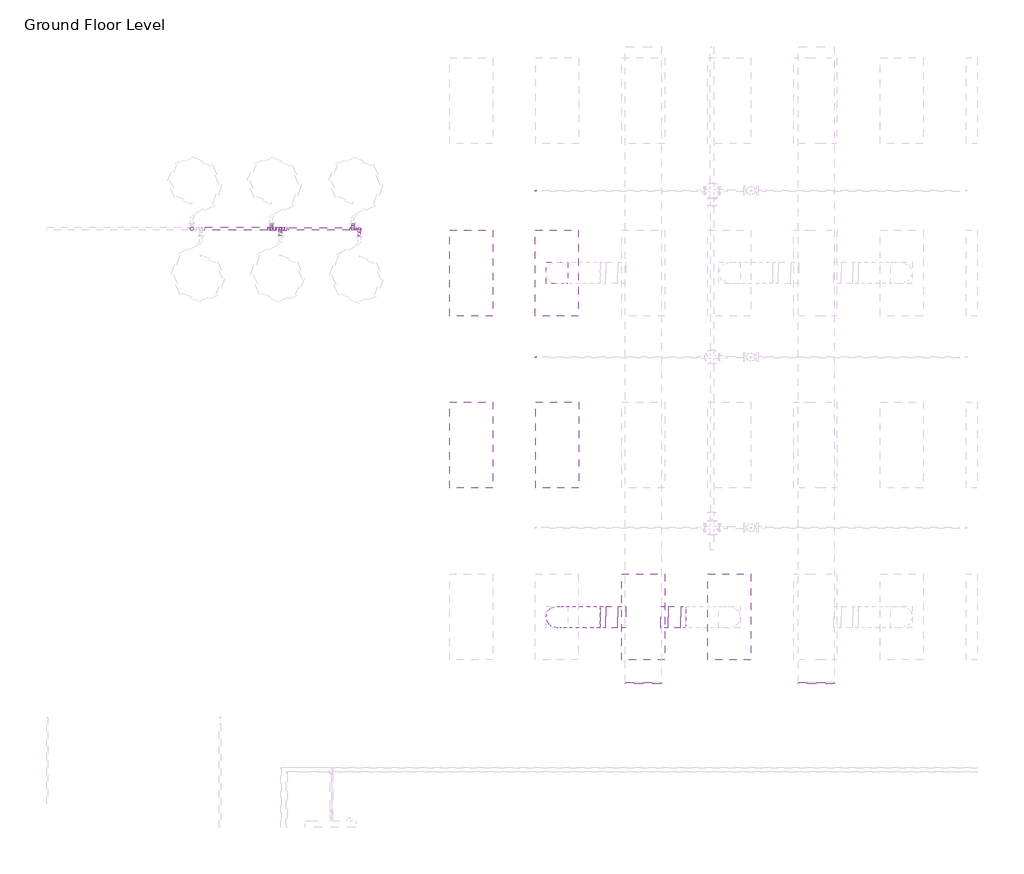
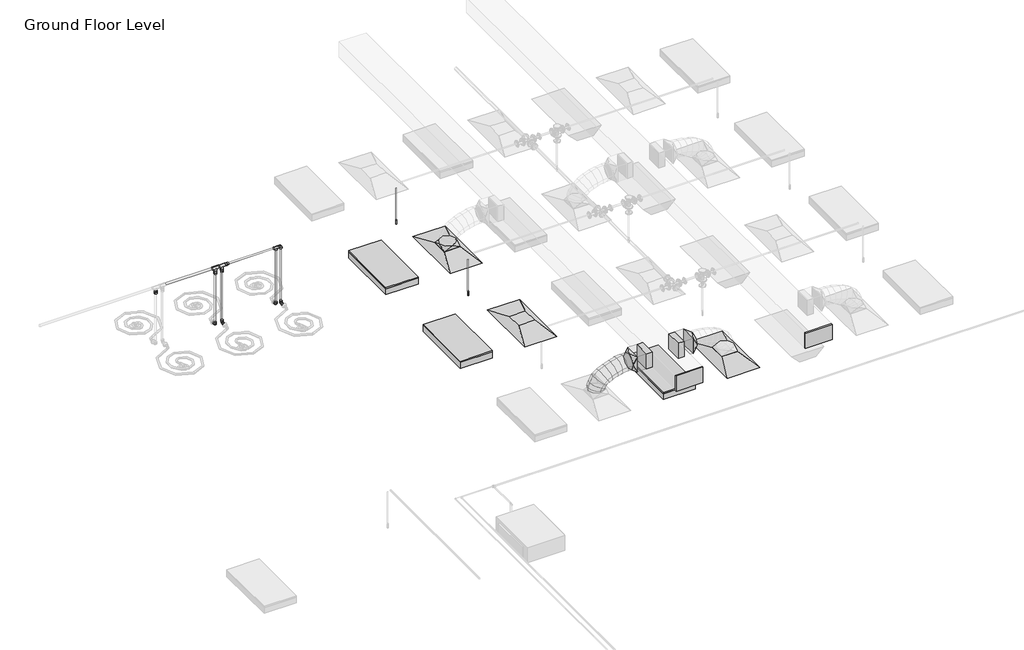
# One storey, part 44 of 74: 14 pipe segments, 12 pipe fittings, 7 duct fittings, 3 air terminals, 3 duct segments, 3 light fixtures, 2 fire suppression terminals.
"""IFC4 building model written with IfcOpenShell, lengths in millimetres."""

from ifc_helpers import new_model, si_unit, point, frame, frame_2d, origin, place, context, project, spatial, polyline, circle_curve, ellipse_curve, trimmed, segment, composite_curve, outline, extrude, transform, mapped, element, save
from ifc_brep_helpers import plane_surface, cylinder_surface, advanced_brep
from components import m_return_diffuser_1200x600_1200_x_600_face_300_x_300_d1983ef6, m_rectangular_endcap_standard_72d4d00d, m_rectangular_takeoff_standard_cb0ccb98, m_rectangular_takeoff_standard_2be5eba1, m_rectangular_to_round_transition_angle_45_degree_641efff0, m_sprinkler_dry_pendent_hosted_15_mm_dry_pendent_9bda8e11, m_troffer_light_parabolic_rectangular1_0600x1200mm_4_lamp_86473d4a, standard_517a5a8d, standard_72b35c3b, standard_08ff6011, standard_d0d0b892

model = new_model("IFC4")

# Units and contexts
model_context = context("Model", 3, world=origin())
ifc_project = project(units=[si_unit("LENGTHUNIT", "METRE", prefix="MILLI")], contexts=[model_context])

# Site, building, storey
site = spatial("IfcSite", under=ifc_project)
building = spatial("IfcBuilding", under=site)
storey = spatial("IfcBuildingStorey", under=building, Name="Ground Floor Level", Elevation=900.0)

# Air terminals
placement = place(None, origin())
m_return_diffuser_1200x600_1200_x_600_face_300_x_300_shape = m_return_diffuser_1200x600_1200_x_600_face_300_x_300_d1983ef6(model_context)
element("IfcAirTerminal", 1, ObjectType="M_Return Diffuser 1200x600 : 1200 x 600 Face 300 x 300 Connection", at=placement, inside=storey, context=model_context, shape_type="MappedRepresentation", body=[
    mapped(m_return_diffuser_1200x600_1200_x_600_face_300_x_300_shape, transform((-8137.2327605, 4035.2153534, 3650.0), x_axis=(0.0, 1.0, 0.0), y_axis=(-1.0, 0.0, 0.0), z_axis=(0.0, 0.0, 1.0))),
])
element("IfcAirTerminal", 2, ObjectType="M_Supply Diffuser 1200x600 : 1200 x 600 Face 300 x 300 Connection", at=placement, inside=storey, context=model_context, shape_type="MappedRepresentation", body=[
    mapped(m_return_diffuser_1200x600_1200_x_600_face_300_x_300_shape, transform((-8142.6846929, 6435.2153534, 3650.0), x_axis=(0.0, 1.0, 0.0), y_axis=(-1.0, 0.0, 0.0), z_axis=(0.0, 0.0, 1.0))),
])
element("IfcAirTerminal", 3, ObjectType="M_Supply Diffuser 1200x600 : 1200 x 600 Face 300 x 300 Connection", at=placement, inside=storey, context=model_context, shape_type="MappedRepresentation", body=[
    mapped(m_return_diffuser_1200x600_1200_x_600_face_300_x_300_shape, transform((-5737.2327605, 1635.2153534, 3650.0), x_axis=(0.0, 1.0, 0.0), y_axis=(-1.0, 0.0, 0.0), z_axis=(0.0, 0.0, 1.0))),
])

# Duct fittings
m_rectangular_endcap_standard_shape = m_rectangular_endcap_standard_72d4d00d(model_context)
element("IfcDuctFitting", 4, ObjectType="M_Rectangular Endcap : Standard", at=placement, inside=storey, context=model_context, shape_type="MappedRepresentation", body=[
    mapped(m_rectangular_endcap_standard_shape, transform((-4528.6910789, 725.2312455, 4150.0403557), x_axis=(0.0, -0.999999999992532, 3.864729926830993e-06), y_axis=(1.0, 0.0, 0.0), z_axis=(0.0, 3.864729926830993e-06, 0.999999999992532))),
])
element("IfcDuctFitting", 5, ObjectType="M_Rectangular Endcap : Standard", at=placement, inside=storey, context=model_context, shape_type="MappedRepresentation", body=[
    mapped(m_rectangular_endcap_standard_shape, transform((-6939.6910789, 725.2153534, 4150.0), x_axis=(0.0, -1.0, 0.0), y_axis=(1.0, 0.0, 0.0), z_axis=(0.0, 0.0, 1.0))),
])
m_rectangular_takeoff_standard_shape = m_rectangular_takeoff_standard_cb0ccb98(model_context)
element("IfcDuctFitting", 6, ObjectType="M_Rectangular Takeoff : Standard", at=placement, inside=storey, context=model_context, shape_type="MappedRepresentation", body=[
    mapped(m_rectangular_takeoff_standard_shape, transform((-6689.6910789, 1635.2153534, 4150.0), x_axis=(1.0, 0.0, 0.0), y_axis=(0.0, -1.0, 0.0), z_axis=(0.0, 0.0, -1.0))),
])
m_rectangular_takeoff_standard_2_shape = m_rectangular_takeoff_standard_2be5eba1(model_context)
element("IfcDuctFitting", 7, ObjectType="M_Rectangular Takeoff : Standard", at=placement, inside=storey, context=model_context, shape_type="MappedRepresentation", body=[
    mapped(m_rectangular_takeoff_standard_2_shape, transform((-7189.6910789, 1635.2153534, 4150.0), x_axis=(-1.0, 0.0, 0.0), y_axis=(0.0, 1.0, 0.0), z_axis=(0.0, 0.0, -1.0))),
])
m_rectangular_to_round_transition_angle_45_degree_shape = m_rectangular_to_round_transition_angle_45_degree_641efff0(model_context)
element("IfcDuctFitting", 8, ObjectType="M_Rectangular to Round Transition - Angle : 45 Degree", at=placement, inside=storey, context=model_context, shape_type="MappedRepresentation", body=[
    mapped(m_rectangular_to_round_transition_angle_45_degree_shape, transform((-8142.6846929, 6435.2153534, 3751.6), x_axis=(0.0, 0.0, 1.0), y_axis=(-1.0, 0.0, 0.0), z_axis=(0.0, -1.0, 0.0))),
])
element("IfcDuctFitting", 9, ObjectType="M_Rectangular to Round Transition - Angle : 45 Degree", at=placement, inside=storey, context=model_context, shape_type="MappedRepresentation", body=[
    mapped(m_rectangular_to_round_transition_angle_45_degree_shape, transform((-7461.2487616, 1635.2153534, 4150.0), x_axis=(-1.0, 0.0, 0.0), y_axis=(0.0, -1.0, 0.0), z_axis=(0.0, 0.0, 1.0))),
])
element("IfcDuctFitting", 10, ObjectType="M_Rectangular to Round Transition - Angle : 45 Degree", at=placement, inside=storey, context=model_context, shape_type="MappedRepresentation", body=[
    mapped(m_rectangular_to_round_transition_angle_45_degree_shape, transform((-6418.6686918, 1635.2153534, 4150.0), x_axis=(1.0, 0.0, 0.0), y_axis=(0.0, 1.0, 0.0), z_axis=(0.0, 0.0, 1.0))),
])

# Duct segments
element("IfcDuctSegment", 11, ObjectType="Flex - Round", at=placement, inside=storey, context=model_context, shape_type="AdvancedBrep", body=[
    advanced_brep(
    [(-7992.6846929, 1635.2153534, 3826.6), (-8142.6846929, 1485.2153534, 3826.6), (-8292.6846929, 1635.2153534, 3826.6), (-8142.6846929, 1785.2153534, 3826.6), (-7992.6846929, 1635.2153534, 3832.4838104), (-8142.6846929, 1485.2153534, 3857.3049615), (-8292.6846929, 1635.2153534, 3882.1261126), (-8142.6846929, 1785.2153534, 3857.3049615), (-7990.555208, 1635.2153534, 3838.7421096), (-8126.0232883, 1485.2153534, 3906.2708192), (-8261.4913687, 1635.2153534, 3973.7995287), (-8126.0232883, 1785.2153534, 3906.2708192), (-7968.5331802, 1635.2153534, 3871.1472855), (-8080.1452707, 1485.2153534, 3973.7798261), (-8191.7573612, 1635.2153534, 4076.4123668), (-8080.1452707, 1785.2153534, 3973.7798261), (-7928.5904556, 1635.2153534, 3903.4915826), (-8011.2099341, 1485.2153534, 4029.6013814), (-8093.8294126, 1635.2153534, 4155.7111802), (-8011.2099341, 1785.2153534, 4029.6013814), (-7865.6682729, 1635.2153534, 3936.1928758), (-7925.3765727, 1485.2153534, 4074.2098454), (-7985.0848725, 1635.2153534, 4212.226815), (-7925.3765727, 1785.2153534, 4074.2098454), (-7786.815881, 1635.2153534, 3963.8479616), (-7828.8044806, 1485.2153534, 4108.0795788), (-7870.7930803, 1635.2153534, 4252.311196), (-7828.8044806, 1785.2153534, 4108.0795788), (-7700.2438983, 1635.2153534, 3984.0509494), (-7727.652952, 1485.2153534, 4131.684942), (-7755.0620057, 1635.2153534, 4279.3189347), (-7727.652952, 1785.2153534, 4131.684942), (-7613.759715, 1635.2153534, 3996.0504424), (-7628.081281, 1485.2153534, 4145.5002956), (-7642.4028469, 1635.2153534, 4294.9501488), (-7628.081281, 1785.2153534, 4145.5002956), (-7539.5984134, 1635.2153534, 4000.0), (-7543.5898089, 1485.2153534, 4150.0), (-7547.5812043, 1635.2153534, 4300.0), (-7543.5898089, 1785.2153534, 4150.0), (-7536.2487616, 1635.2153534, 4000.0), (-7536.2487616, 1785.2153534, 4150.0), (-7536.2487616, 1635.2153534, 4300.0), (-7536.2487616, 1485.2153534, 4150.0)],
    [
        (0, 1, circle_curve(frame((-8142.6846929, 1635.2153534, 3826.6), z_axis=(0.0, 0.0, -1.0), x_axis=(1.0, 0.0, 0.0)), 150.0)),
        (1, 2, circle_curve(frame((-8142.6846929, 1635.2153534, 3826.6), z_axis=(0.0, 0.0, -1.0), x_axis=(1.0, 0.0, 0.0)), 150.0)),
        (2, 3, circle_curve(frame((-8142.6846929, 1635.2153534, 3826.6), z_axis=(0.0, 0.0, -1.0), x_axis=(1.0, 0.0, 0.0)), 150.0)),
        (3, 0, circle_curve(frame((-8142.6846929, 1635.2153534, 3826.6), z_axis=(0.0, 0.0, -1.0), x_axis=(1.0, 0.0, 0.0)), 150.0)),
        (0, 4),
        (4, 5, ellipse_curve(frame((-8142.6846929, 1635.2153534, 3857.3049615), z_axis=(-0.1632543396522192, 0.0, -0.9865840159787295), x_axis=(0.9865840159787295, 0.0, -0.16325433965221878)), 152.039763, 150.0)),
        (5, 1),
        (5, 6, ellipse_curve(frame((-8142.6846929, 1635.2153534, 3857.3049615), z_axis=(-0.1632543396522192, 0.0, -0.9865840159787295), x_axis=(0.9865840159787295, 0.0, -0.16325433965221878)), 152.039763, 150.0)),
        (6, 2),
        (6, 7, ellipse_curve(frame((-8142.6846929, 1635.2153534, 3857.3049615), z_axis=(-0.1632543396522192, 0.0, -0.9865840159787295), x_axis=(0.9865840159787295, 0.0, -0.16325433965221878)), 152.039763, 150.0)),
        (7, 3),
        (7, 4, ellipse_curve(frame((-8142.6846929, 1635.2153534, 3857.3049615), z_axis=(-0.1632543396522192, 0.0, -0.9865840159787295), x_axis=(0.9865840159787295, 0.0, -0.16325433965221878)), 152.039763, 150.0)),
        (4, 8),
        (8, 9, ellipse_curve(frame((-8126.0232883, 1635.2153534, 3906.2708192), z_axis=(-0.44612805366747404, 0.0, -0.8949691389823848), x_axis=(0.8949691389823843, 0.0, -0.44612805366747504)), 151.366203, 150.0)),
        (9, 5),
        (9, 10, ellipse_curve(frame((-8126.0232883, 1635.2153534, 3906.2708192), z_axis=(-0.44612805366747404, 0.0, -0.8949691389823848), x_axis=(0.8949691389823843, 0.0, -0.44612805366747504)), 151.366203, 150.0)),
        (10, 6),
        (10, 11, ellipse_curve(frame((-8126.0232883, 1635.2153534, 3906.2708192), z_axis=(-0.44612805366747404, 0.0, -0.8949691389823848), x_axis=(0.8949691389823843, 0.0, -0.44612805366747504)), 151.366203, 150.0)),
        (11, 7),
        (11, 8, ellipse_curve(frame((-8126.0232883, 1635.2153534, 3906.2708192), z_axis=(-0.44612805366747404, 0.0, -0.8949691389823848), x_axis=(0.8949691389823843, 0.0, -0.44612805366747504)), 151.366203, 150.0)),
        (8, 12),
        (12, 13, ellipse_curve(frame((-8080.1452707, 1635.2153534, 3973.7798261), z_axis=(-0.6768758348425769, 0.0, -0.7360972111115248), x_axis=(0.7360972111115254, 0.0, -0.6768758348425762)), 151.6268352, 150.0)),
        (13, 9),
        (13, 14, ellipse_curve(frame((-8080.1452707, 1635.2153534, 3973.7798261), z_axis=(-0.6768758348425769, 0.0, -0.7360972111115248), x_axis=(0.7360972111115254, 0.0, -0.6768758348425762)), 151.6268352, 150.0)),
        (14, 10),
        (14, 15, ellipse_curve(frame((-8080.1452707, 1635.2153534, 3973.7798261), z_axis=(-0.6768758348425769, 0.0, -0.7360972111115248), x_axis=(0.7360972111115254, 0.0, -0.6768758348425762)), 151.6268352, 150.0)),
        (15, 11),
        (15, 12, ellipse_curve(frame((-8080.1452707, 1635.2153534, 3973.7798261), z_axis=(-0.6768758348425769, 0.0, -0.7360972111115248), x_axis=(0.7360972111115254, 0.0, -0.6768758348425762)), 151.6268352, 150.0)),
        (12, 16),
        (16, 17, ellipse_curve(frame((-8011.2099341, 1635.2153534, 4029.6013814), z_axis=(-0.8364738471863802, 0.0, -0.5480068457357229), x_axis=(0.5480068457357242, 0.0, -0.8364738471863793)), 150.7635884, 150.0)),
        (17, 13),
        (17, 18, ellipse_curve(frame((-8011.2099341, 1635.2153534, 4029.6013814), z_axis=(-0.8364738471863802, 0.0, -0.5480068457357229), x_axis=(0.5480068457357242, 0.0, -0.8364738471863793)), 150.7635884, 150.0)),
        (18, 14),
        (18, 19, ellipse_curve(frame((-8011.2099341, 1635.2153534, 4029.6013814), z_axis=(-0.8364738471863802, 0.0, -0.5480068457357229), x_axis=(0.5480068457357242, 0.0, -0.8364738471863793)), 150.7635884, 150.0)),
        (19, 15),
        (19, 16, ellipse_curve(frame((-8011.2099341, 1635.2153534, 4029.6013814), z_axis=(-0.8364738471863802, 0.0, -0.5480068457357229), x_axis=(0.5480068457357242, 0.0, -0.8364738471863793)), 150.7635884, 150.0)),
        (16, 20),
        (20, 21, ellipse_curve(frame((-7925.3765727, 1635.2153534, 4074.2098454), z_axis=(-0.9177957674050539, 0.0, -0.39705280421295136), x_axis=(0.39705280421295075, 0.0, -0.9177957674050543)), 150.3787384, 150.0)),
        (21, 17),
        (21, 22, ellipse_curve(frame((-7925.3765727, 1635.2153534, 4074.2098454), z_axis=(-0.9177957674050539, 0.0, -0.39705280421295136), x_axis=(0.39705280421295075, 0.0, -0.9177957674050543)), 150.3787384, 150.0)),
        (22, 18),
        (22, 23, ellipse_curve(frame((-7925.3765727, 1635.2153534, 4074.2098454), z_axis=(-0.9177957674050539, 0.0, -0.39705280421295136), x_axis=(0.39705280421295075, 0.0, -0.9177957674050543)), 150.3787384, 150.0)),
        (23, 19),
        (23, 20, ellipse_curve(frame((-7925.3765727, 1635.2153534, 4074.2098454), z_axis=(-0.9177957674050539, 0.0, -0.39705280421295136), x_axis=(0.39705280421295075, 0.0, -0.9177957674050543)), 150.3787384, 150.0)),
        (20, 24),
        (24, 25, ellipse_curve(frame((-7828.8044806, 1635.2153534, 4108.0795788), z_axis=(-0.9601411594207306, 0.0, -0.2795155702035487), x_axis=(0.27951557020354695, 0.0, -0.9601411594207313)), 150.2191795, 150.0)),
        (25, 21),
        (25, 26, ellipse_curve(frame((-7828.8044806, 1635.2153534, 4108.0795788), z_axis=(-0.9601411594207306, 0.0, -0.2795155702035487), x_axis=(0.27951557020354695, 0.0, -0.9601411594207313)), 150.2191795, 150.0)),
        (26, 22),
        (26, 27, ellipse_curve(frame((-7828.8044806, 1635.2153534, 4108.0795788), z_axis=(-0.9601411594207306, 0.0, -0.2795155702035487), x_axis=(0.27951557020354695, 0.0, -0.9601411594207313)), 150.2191795, 150.0)),
        (27, 23),
        (27, 24, ellipse_curve(frame((-7828.8044806, 1635.2153534, 4108.0795788), z_axis=(-0.9601411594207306, 0.0, -0.2795155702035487), x_axis=(0.27951557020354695, 0.0, -0.9601411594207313)), 150.2191795, 150.0)),
        (24, 28),
        (28, 29, ellipse_curve(frame((-7727.652952, 1635.2153534, 4131.684942), z_axis=(-0.9831991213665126, 0.0, -0.1825362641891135), x_axis=(0.1825362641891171, 0.0, -0.9831991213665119)), 150.1567581, 150.0)),
        (29, 25),
        (29, 30, ellipse_curve(frame((-7727.652952, 1635.2153534, 4131.684942), z_axis=(-0.9831991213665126, 0.0, -0.1825362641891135), x_axis=(0.1825362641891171, 0.0, -0.9831991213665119)), 150.1567581, 150.0)),
        (30, 26),
        (30, 31, ellipse_curve(frame((-7727.652952, 1635.2153534, 4131.684942), z_axis=(-0.9831991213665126, 0.0, -0.1825362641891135), x_axis=(0.1825362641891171, 0.0, -0.9831991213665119)), 150.1567581, 150.0)),
        (31, 27),
        (31, 28, ellipse_curve(frame((-7727.652952, 1635.2153534, 4131.684942), z_axis=(-0.9831991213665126, 0.0, -0.1825362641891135), x_axis=(0.1825362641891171, 0.0, -0.9831991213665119)), 150.1567581, 150.0)),
        (28, 32),
        (32, 33, ellipse_curve(frame((-7628.081281, 1635.2153534, 4145.5002956), z_axis=(-0.9954398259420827, 0.0, -0.09539157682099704), x_axis=(0.09539157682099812, 0.0, -0.9954398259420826)), 150.1344926, 150.0)),
        (33, 29),
        (33, 34, ellipse_curve(frame((-7628.081281, 1635.2153534, 4145.5002956), z_axis=(-0.9954398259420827, 0.0, -0.09539157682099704), x_axis=(0.09539157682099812, 0.0, -0.9954398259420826)), 150.1344926, 150.0)),
        (34, 30),
        (34, 35, ellipse_curve(frame((-7628.081281, 1635.2153534, 4145.5002956), z_axis=(-0.9954398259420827, 0.0, -0.09539157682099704), x_axis=(0.09539157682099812, 0.0, -0.9954398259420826)), 150.1344926, 150.0)),
        (35, 31),
        (35, 32, ellipse_curve(frame((-7628.081281, 1635.2153534, 4145.5002956), z_axis=(-0.9954398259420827, 0.0, -0.09539157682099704), x_axis=(0.09539157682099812, 0.0, -0.9954398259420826)), 150.1344926, 150.0)),
        (32, 36),
        (36, 37, ellipse_curve(frame((-7543.5898089, 1635.2153534, 4150.0), z_axis=(-0.9996461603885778, 0.0, -0.026599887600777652), x_axis=(0.026599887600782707, 0.0, -0.9996461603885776)), 150.0530947, 150.0)),
        (37, 33),
        (37, 38, ellipse_curve(frame((-7543.5898089, 1635.2153534, 4150.0), z_axis=(-0.9996461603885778, 0.0, -0.026599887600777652), x_axis=(0.026599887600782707, 0.0, -0.9996461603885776)), 150.0530947, 150.0)),
        (38, 34),
        (38, 39, ellipse_curve(frame((-7543.5898089, 1635.2153534, 4150.0), z_axis=(-0.9996461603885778, 0.0, -0.026599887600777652), x_axis=(0.026599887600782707, 0.0, -0.9996461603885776)), 150.0530947, 150.0)),
        (39, 35),
        (39, 36, ellipse_curve(frame((-7543.5898089, 1635.2153534, 4150.0), z_axis=(-0.9996461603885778, 0.0, -0.026599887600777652), x_axis=(0.026599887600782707, 0.0, -0.9996461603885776)), 150.0530947, 150.0)),
        (40, 41, circle_curve(frame((-7536.2487616, 1635.2153534, 4150.0), z_axis=(1.0, 0.0, 0.0), x_axis=(0.0, 0.0, -1.0)), 150.0)),
        (41, 42, circle_curve(frame((-7536.2487616, 1635.2153534, 4150.0), z_axis=(1.0, 0.0, 0.0), x_axis=(0.0, 0.0, -1.0)), 150.0)),
        (42, 43, circle_curve(frame((-7536.2487616, 1635.2153534, 4150.0), z_axis=(1.0, 0.0, 0.0), x_axis=(0.0, 0.0, -1.0)), 150.0)),
        (43, 40, circle_curve(frame((-7536.2487616, 1635.2153534, 4150.0), z_axis=(1.0, 0.0, 0.0), x_axis=(0.0, 0.0, -1.0)), 150.0)),
        (36, 40),
        (43, 37),
        (42, 38),
        (41, 39),
    ],
    [
        plane_surface(frame((-8142.6846929, 1485.2153534, 3826.6), z_axis=(0.0, 0.0, -1.0), x_axis=(1.0, 0.0, 0.0))),
        cylinder_surface(frame((-8142.6846929, 1635.2153534, 3826.6), z_axis=(0.0, 0.0, -1.0), x_axis=(1.0, 0.0, 0.0)), 150.0),
        cylinder_surface(frame((-8142.6846929, 1635.2153534, 3857.3049615), z_axis=(-0.32212824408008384, 0.0, -0.9466960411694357), x_axis=(0.9466960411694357, 0.0, -0.32212824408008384)), 150.0),
        cylinder_surface(frame((-8126.0232883, 1635.2153534, 3906.2708192), z_axis=(-0.5620745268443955, 0.0, -0.8270865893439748), x_axis=(0.8270865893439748, 0.0, -0.5620745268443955)), 150.0),
        cylinder_surface(frame((-8080.1452707, 1635.2153534, 3973.7798261), z_axis=(-0.777152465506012, 0.0, -0.6293123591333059), x_axis=(0.6293123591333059, 0.0, -0.777152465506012)), 150.0),
        cylinder_surface(frame((-8011.2099341, 1635.2153534, 4029.6013814), z_axis=(-0.887322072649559, 0.0, -0.4611502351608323), x_axis=(0.4611502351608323, 0.0, -0.887322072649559)), 150.0),
        cylinder_surface(frame((-7925.3765727, 1635.2153534, 4074.2098454), z_axis=(-0.9436464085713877, 0.0, -0.3309553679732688), x_axis=(0.3309553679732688, 0.0, -0.9436464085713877)), 150.0),
        cylinder_surface(frame((-7828.8044806, 1635.2153534, 4108.0795788), z_axis=(-0.9738340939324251, 0.0, -0.22726010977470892), x_axis=(0.22726010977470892, 0.0, -0.9738340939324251)), 150.0),
        cylinder_surface(frame((-7727.652952, 1635.2153534, 4131.684942), z_axis=(-0.9905113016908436, 0.0, -0.137431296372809), x_axis=(0.137431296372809, 0.0, -0.9905113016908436)), 150.0),
        cylinder_surface(frame((-7628.081281, 1635.2153534, 4145.5002956), z_axis=(-0.998584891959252, 0.0, -0.05318095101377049), x_axis=(0.05318095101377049, 0.0, -0.998584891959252)), 150.0),
        plane_surface(frame((-7536.2487616, 1635.2153534, 4000.0), z_axis=(1.0, 0.0, 0.0), x_axis=(0.0, 1.0, 0.0))),
        cylinder_surface(frame((-7543.5898089, 1635.2153534, 4150.0), z_axis=(-1.0, 0.0, 0.0), x_axis=(0.0, 0.0, -1.0)), 150.0),
    ],
    [
        (0, [[1, 2, 3, 4]]),
        (1, [[-1, 5, 6, 7]]),
        (1, [[-2, -7, 8, 9]]),
        (1, [[-3, -9, 10, 11]]),
        (1, [[-4, -11, 12, -5]]),
        (2, [[-6, 13, 14, 15]]),
        (2, [[-8, -15, 16, 17]]),
        (2, [[-10, -17, 18, 19]]),
        (2, [[-12, -19, 20, -13]]),
        (3, [[-14, 21, 22, 23]]),
        (3, [[-16, -23, 24, 25]]),
        (3, [[-18, -25, 26, 27]]),
        (3, [[-20, -27, 28, -21]]),
        (4, [[-22, 29, 30, 31]]),
        (4, [[-24, -31, 32, 33]]),
        (4, [[-26, -33, 34, 35]]),
        (4, [[-28, -35, 36, -29]]),
        (5, [[-30, 37, 38, 39]]),
        (5, [[-32, -39, 40, 41]]),
        (5, [[-34, -41, 42, 43]]),
        (5, [[-36, -43, 44, -37]]),
        (6, [[-38, 45, 46, 47]]),
        (6, [[-40, -47, 48, 49]]),
        (6, [[-42, -49, 50, 51]]),
        (6, [[-44, -51, 52, -45]]),
        (7, [[-46, 53, 54, 55]]),
        (7, [[-48, -55, 56, 57]]),
        (7, [[-50, -57, 58, 59]]),
        (7, [[-52, -59, 60, -53]]),
        (8, [[-54, 61, 62, 63]]),
        (8, [[-56, -63, 64, 65]]),
        (8, [[-58, -65, 66, 67]]),
        (8, [[-60, -67, 68, -61]]),
        (9, [[-62, 69, 70, 71]]),
        (9, [[-64, -71, 72, 73]]),
        (9, [[-66, -73, 74, 75]]),
        (9, [[-68, -75, 76, -69]]),
        (10, [[77, 78, 79, 80]]),
        (11, [[-70, 81, -80, 82]]),
        (11, [[-72, -82, -79, 83]]),
        (11, [[-74, -83, -78, 84]]),
        (11, [[-76, -84, -77, -81]]),
    ],
),
])
element("IfcDuctSegment", 12, ObjectType="Radius Elbows / Taps", at=placement, inside=storey, context=model_context, shape_type="SweptSolid", body=[
    extrude(outline(polyline([(-7291.2910789, 1785.2153534), (-7291.2910789, 1485.2153534), (-7461.2487616, 1485.2153534), (-7461.2487616, 1785.2153534), (-7291.2910789, 1785.2153534)])), frame((0.0, 0.0, 4000.0), z_axis=(0.0, 0.0, 1.0), x_axis=(1.0, 0.0, 0.0)), (0.0, 0.0, 1.0), 300.0),
])
element("IfcDuctSegment", 13, ObjectType="Radius Elbows / Taps", at=placement, inside=storey, context=model_context, shape_type="SweptSolid", body=[
    extrude(outline(polyline([(-6588.0910789, 1485.2153534), (-6588.0910789, 1785.2153534), (-6418.6686918, 1785.2153534), (-6418.6686918, 1485.2153534), (-6588.0910789, 1485.2153534)])), frame((0.0, 0.0, 4000.0), z_axis=(0.0, 0.0, 1.0), x_axis=(1.0, 0.0, 0.0)), (0.0, 0.0, 1.0), 300.0),
])

# Fire suppression terminals
m_sprinkler_dry_pendent_hosted_15_mm_dry_pendent_shape = m_sprinkler_dry_pendent_hosted_15_mm_dry_pendent_9bda8e11(model_context)
element("IfcFireSuppressionTerminal", 14, ObjectType="M_Sprinkler - Dry - Pendent - Hosted : 15 mm Dry Pendent", at=placement, inside=storey, context=model_context, shape_type="MappedRepresentation", body=[
    mapped(m_sprinkler_dry_pendent_hosted_15_mm_dry_pendent_shape, transform((-8437.2327605, 7582.7040742, 3650.0), x_axis=(1.0, 0.0, 0.0), y_axis=(0.0, -1.0, 0.0), z_axis=(0.0, 0.0, -1.0))),
])
element("IfcFireSuppressionTerminal", 15, ObjectType="M_Sprinkler - Dry - Pendent - Hosted : 15 mm Dry Pendent", at=placement, inside=storey, context=model_context, shape_type="MappedRepresentation", body=[
    mapped(m_sprinkler_dry_pendent_hosted_15_mm_dry_pendent_shape, transform((-8437.2327605, 5261.0372753, 3650.0), x_axis=(1.0, 0.0, 0.0), y_axis=(0.0, -1.0, 0.0), z_axis=(0.0, 0.0, -1.0))),
])

# Light fixtures
m_troffer_light_parabolic_rectangular1_0600x1200mm_4_lamp_shape = m_troffer_light_parabolic_rectangular1_0600x1200mm_4_lamp_86473d4a(model_context)
element("IfcLightFixture", 16, ObjectType="M_Troffer Light - Parabolic Rectangular1 : 0600x1200mm(4 Lamp) - 277V 2", at=placement, inside=storey, context=model_context, shape_type="MappedRepresentation", body=[
    mapped(m_troffer_light_parabolic_rectangular1_0600x1200mm_4_lamp_shape, transform((-9396.6986926, 6453.918855, 3650.0), x_axis=(0.0, 1.0, 0.0), y_axis=(-1.0, 0.0, 0.0), z_axis=(0.0, 0.0, 1.0))),
])
element("IfcLightFixture", 17, ObjectType="M_Troffer Light - Parabolic Rectangular1 : 0600x1200mm(4 Lamp) - 277V 2", at=placement, inside=storey, context=model_context, shape_type="MappedRepresentation", body=[
    mapped(m_troffer_light_parabolic_rectangular1_0600x1200mm_4_lamp_shape, transform((-9396.6986926, 4053.918855, 3650.0), x_axis=(0.0, 1.0, 0.0), y_axis=(-1.0, 0.0, 0.0), z_axis=(0.0, 0.0, 1.0))),
])
element("IfcLightFixture", 18, ObjectType="M_Troffer Light - Parabolic Rectangular1 : 0600x1200mm(4 Lamp) - 277V 2", at=placement, inside=storey, context=model_context, shape_type="MappedRepresentation", body=[
    mapped(m_troffer_light_parabolic_rectangular1_0600x1200mm_4_lamp_shape, transform((-6996.6986926, 1653.918855, 3650.0), x_axis=(0.0, 1.0, 0.0), y_axis=(-1.0, 0.0, 0.0), z_axis=(0.0, 0.0, 1.0))),
])

# Pipe fittings
standard_shape = standard_517a5a8d(model_context)
element("IfcPipeFitting", 19, ObjectType="M_Elbow - CPVC - Sch 40 : Standard", at=placement, inside=storey, context=model_context, shape_type="MappedRepresentation", body=[
    mapped(standard_shape, transform((-12122.2327605, 7049.9865561, 3200.0), x_axis=(0.0, 0.0, -1.0), y_axis=(0.0, 1.0, 0.0), z_axis=(1.0, 0.0, 0.0))),
])
element("IfcPipeFitting", 20, ObjectType="M_Elbow - CPVC - Sch 40 : Standard", at=placement, inside=storey, context=model_context, shape_type="MappedRepresentation", body=[
    mapped(standard_shape, transform((-11997.2327605, 7049.9865561, 3200.0), x_axis=(0.0, 0.0, -1.0), y_axis=(0.0, -1.0, 0.0), z_axis=(-1.0, 0.0, 0.0))),
])
element("IfcPipeFitting", 21, ObjectType="M_Elbow - CPVC - Sch 40 : Standard", at=placement, inside=storey, context=model_context, shape_type="MappedRepresentation", body=[
    mapped(standard_shape, transform((-10987.2327605, 7049.9865561, 3200.0), x_axis=(0.0, 0.0, -1.0), y_axis=(0.0, 1.0, 0.0), z_axis=(1.0, 0.0, 0.0))),
])
element("IfcPipeFitting", 22, ObjectType="M_Elbow - CPVC - Sch 40 : Standard", at=placement, inside=storey, context=model_context, shape_type="MappedRepresentation", body=[
    mapped(standard_shape, transform((-10897.2327605, 7049.9865561, 3200.0), x_axis=(0.0, 0.0, -1.0), y_axis=(0.0, -1.0, 0.0), z_axis=(-1.0, 0.0, 0.0))),
])
element("IfcPipeFitting", 23, ObjectType="M_Elbow - CPVC - Sch 40 : Standard", at=placement, inside=storey, context=model_context, shape_type="MappedRepresentation", body=[
    mapped(standard_shape, transform((-10897.2327605, 7049.9865561, 4315.0), x_axis=(1.0, 0.0, 0.0), y_axis=(0.0, 0.0, -1.0), z_axis=(0.0, 1.0, 0.0))),
])
standard_2_shape = standard_72b35c3b(model_context)
element("IfcPipeFitting", 24, ObjectType="M_Tee - CPVC - Sch 40 : Standard", at=placement, inside=storey, context=model_context, shape_type="MappedRepresentation", body=[
    mapped(standard_2_shape, transform((-10987.2327605, 7049.9865561, 4315.0), x_axis=(-1.0, 0.0, 0.0), y_axis=(0.0, 0.0, 1.0), z_axis=(0.0, 1.0, 0.0))),
])
standard_3_shape = standard_08ff6011(model_context)
element("IfcPipeFitting", 25, ObjectType="M_Tee - CPVC - Sch 40 : Standard", at=placement, inside=storey, context=model_context, shape_type="MappedRepresentation", body=[
    mapped(standard_3_shape, transform((-12122.2327605, 7049.9865561, 4315.0), x_axis=(-1.0, 0.0, 0.0), y_axis=(0.0, 0.0, 1.0), z_axis=(0.0, 1.0, 0.0))),
])
element("IfcPipeFitting", 26, ObjectType="M_Tee - CPVC - Sch 40 : Standard", at=placement, inside=storey, context=model_context, shape_type="MappedRepresentation", body=[
    mapped(standard_3_shape, transform((-11997.2327605, 7049.9865561, 4315.0), x_axis=(-1.0, 0.0, 0.0), y_axis=(0.0, 0.0, 1.0), z_axis=(0.0, 1.0, 0.0))),
])
standard_4_shape = standard_d0d0b892(model_context)
element("IfcPipeFitting", 27, ObjectType="M_Coupling Reducing - CPVC - Sch 40 : Standard", at=placement, inside=storey, context=model_context, shape_type="MappedRepresentation", body=[
    mapped(standard_4_shape, transform((-13232.2327605, 7049.9865561, 4261.025), x_axis=(0.0, 0.0, -1.0), y_axis=(-1.0, 0.0, 0.0), z_axis=(0.0, 1.0, 0.0))),
])
element("IfcPipeFitting", 28, ObjectType="M_Coupling Reducing - CPVC - Sch 40 : Standard", at=placement, inside=storey, context=model_context, shape_type="MappedRepresentation", body=[
    mapped(standard_4_shape, transform((-12122.2327605, 7049.9865561, 4261.025), x_axis=(0.0, 0.0, -1.0), y_axis=(-1.0, 0.0, 0.0), z_axis=(0.0, 1.0, 0.0))),
])
element("IfcPipeFitting", 29, ObjectType="M_Coupling Reducing - CPVC - Sch 40 : Standard", at=placement, inside=storey, context=model_context, shape_type="MappedRepresentation", body=[
    mapped(standard_4_shape, transform((-11997.2327605, 7049.9865561, 4261.025), x_axis=(0.0, 0.0, -1.0), y_axis=(1.0, 0.0, 0.0), z_axis=(0.0, -1.0, 0.0))),
])
element("IfcPipeFitting", 30, ObjectType="M_Coupling Reducing - CPVC - Sch 40 : Standard", at=placement, inside=storey, context=model_context, shape_type="MappedRepresentation", body=[
    mapped(standard_4_shape, transform((-11943.2577605, 7049.9865561, 4315.0), x_axis=(1.0, 0.0, 0.0), y_axis=(0.0, 1.0, 0.0), z_axis=(0.0, 0.0, 1.0))),
])

# Pipe segments
element("IfcPipeSegment", 31, ObjectType="CPVC", at=placement, inside=storey, context=model_context, shape_type="SweptSolid", body=[
    extrude(outline(composite_curve([segment(trimmed(circle_curve(frame_2d((3200.0, -12122.2327605)), 16.7005), [point((3200.0, -12105.5322605))], [point((3216.7005, -12122.2327605))], False, "CARTESIAN"), True, "CONTINUOUS"), segment(trimmed(circle_curve(frame_2d((3200.0, -12122.2327605)), 16.7005), [point((3216.7005, -12122.2327605))], [point((3200.0, -12138.9332605))], False, "CARTESIAN"), True, "CONTINUOUS"), segment(trimmed(circle_curve(frame_2d((3200.0, -12122.2327605)), 16.7005), [point((3200.0, -12138.9332605))], [point((3183.2995, -12122.2327605))], False, "CARTESIAN"), True, "CONTINUOUS"), segment(trimmed(circle_curve(frame_2d((3200.0, -12122.2327605)), 16.7005), [point((3183.2995, -12122.2327605))], [point((3200.0, -12105.5322605))], False, "CARTESIAN"), True, "CONTINUOUS")], self_intersect=False)), frame((0.0, 7093.2491061, 0.0), z_axis=(0.0, 1.0, 0.0), x_axis=(0.0, 0.0, 1.0)), (0.0, 0.0, 1.0), 30.346801),
])
element("IfcPipeSegment", 32, ObjectType="CPVC", at=placement, inside=storey, context=model_context, shape_type="SweptSolid", body=[
    extrude(outline(composite_curve([segment(trimmed(circle_curve(frame_2d((-12122.2327605, 7049.9865561)), 16.7005), [point((-12105.5322605, 7049.9865561))], [point((-12122.2327605, 7033.2860561))], False, "CARTESIAN"), True, "CONTINUOUS"), segment(trimmed(circle_curve(frame_2d((-12122.2327605, 7049.9865561)), 16.7005), [point((-12122.2327605, 7033.2860561))], [point((-12138.9332605, 7049.9865561))], False, "CARTESIAN"), True, "CONTINUOUS"), segment(trimmed(circle_curve(frame_2d((-12122.2327605, 7049.9865561)), 16.7005), [point((-12138.9332605, 7049.9865561))], [point((-12122.2327605, 7066.6870561))], False, "CARTESIAN"), True, "CONTINUOUS"), segment(trimmed(circle_curve(frame_2d((-12122.2327605, 7049.9865561)), 16.7005), [point((-12122.2327605, 7066.6870561))], [point((-12105.5322605, 7049.9865561))], False, "CARTESIAN"), True, "CONTINUOUS")], self_intersect=False)), frame((0.0, 0.0, 3243.26255), z_axis=(0.0, 0.0, 1.0), x_axis=(1.0, 0.0, 0.0)), (0.0, 0.0, 1.0), 951.643575),
])
element("IfcPipeSegment", 33, ObjectType="CPVC", at=placement, inside=storey, context=model_context, shape_type="SweptSolid", body=[
    extrude(outline(composite_curve([segment(trimmed(circle_curve(frame_2d((7049.9865561, 4315.0)), 21.082), [point((7028.9045561, 4315.0))], [point((7049.9865561, 4336.082))], False, "CARTESIAN"), True, "CONTINUOUS"), segment(trimmed(circle_curve(frame_2d((7049.9865561, 4315.0)), 21.082), [point((7049.9865561, 4336.082))], [point((7071.0685561, 4315.0))], False, "CARTESIAN"), True, "CONTINUOUS"), segment(trimmed(circle_curve(frame_2d((7049.9865561, 4315.0)), 21.082), [point((7071.0685561, 4315.0))], [point((7049.9865561, 4293.918))], False, "CARTESIAN"), True, "CONTINUOUS"), segment(trimmed(circle_curve(frame_2d((7049.9865561, 4315.0)), 21.082), [point((7049.9865561, 4293.918))], [point((7028.9045561, 4315.0))], False, "CARTESIAN"), True, "CONTINUOUS")], self_intersect=False)), frame((-13053.2577605, 0.0, 0.0), z_axis=(1.0, 0.0, 0.0), x_axis=(0.0, 1.0, 0.0)), (0.0, 0.0, 1.0), 877.05),
])
element("IfcPipeSegment", 34, ObjectType="CPVC", at=placement, inside=storey, context=model_context, shape_type="SweptSolid", body=[
    extrude(outline(composite_curve([segment(trimmed(circle_curve(frame_2d((3200.0, -11997.2327605)), 16.7005), [point((3200.0, -12013.9332605))], [point((3183.2995, -11997.2327605))], False, "CARTESIAN"), True, "CONTINUOUS"), segment(trimmed(circle_curve(frame_2d((3200.0, -11997.2327605)), 16.7005), [point((3183.2995, -11997.2327605))], [point((3200.0, -11980.5322605))], False, "CARTESIAN"), True, "CONTINUOUS"), segment(trimmed(circle_curve(frame_2d((3200.0, -11997.2327605)), 16.7005), [point((3200.0, -11980.5322605))], [point((3216.7005, -11997.2327605))], False, "CARTESIAN"), True, "CONTINUOUS"), segment(trimmed(circle_curve(frame_2d((3200.0, -11997.2327605)), 16.7005), [point((3216.7005, -11997.2327605))], [point((3200.0, -12013.9332605))], False, "CARTESIAN"), True, "CONTINUOUS")], self_intersect=False)), frame((0.0, 6956.8347997, 0.0), z_axis=(0.0, 1.0, 0.0), x_axis=(0.0, 0.0, 1.0)), (0.0, 0.0, 1.0), 49.8892064),
])
element("IfcPipeSegment", 35, ObjectType="CPVC", at=placement, inside=storey, context=model_context, shape_type="SweptSolid", body=[
    extrude(outline(composite_curve([segment(trimmed(circle_curve(frame_2d((-11997.2327605, 7049.9865561)), 16.7005), [point((-11980.5322605, 7049.9865561))], [point((-11997.2327605, 7033.2860561))], False, "CARTESIAN"), True, "CONTINUOUS"), segment(trimmed(circle_curve(frame_2d((-11997.2327605, 7049.9865561)), 16.7005), [point((-11997.2327605, 7033.2860561))], [point((-12013.9332605, 7049.9865561))], False, "CARTESIAN"), True, "CONTINUOUS"), segment(trimmed(circle_curve(frame_2d((-11997.2327605, 7049.9865561)), 16.7005), [point((-12013.9332605, 7049.9865561))], [point((-11997.2327605, 7066.6870561))], False, "CARTESIAN"), True, "CONTINUOUS"), segment(trimmed(circle_curve(frame_2d((-11997.2327605, 7049.9865561)), 16.7005), [point((-11997.2327605, 7066.6870561))], [point((-11980.5322605, 7049.9865561))], False, "CARTESIAN"), True, "CONTINUOUS")], self_intersect=False)), frame((0.0, 0.0, 3243.26255), z_axis=(0.0, 0.0, 1.0), x_axis=(1.0, 0.0, 0.0)), (0.0, 0.0, 1.0), 951.643575),
])
element("IfcPipeSegment", 36, ObjectType="CPVC", at=placement, inside=storey, context=model_context, shape_type="SweptSolid", body=[
    extrude(outline(composite_curve([segment(trimmed(circle_curve(frame_2d((7049.9865561, 4315.0)), 21.082), [point((7028.9045561, 4315.0))], [point((7049.9865561, 4336.082))], False, "CARTESIAN"), True, "CONTINUOUS"), segment(trimmed(circle_curve(frame_2d((7049.9865561, 4315.0)), 21.082), [point((7049.9865561, 4336.082))], [point((7071.0685561, 4315.0))], False, "CARTESIAN"), True, "CONTINUOUS"), segment(trimmed(circle_curve(frame_2d((7049.9865561, 4315.0)), 21.082), [point((7071.0685561, 4315.0))], [point((7049.9865561, 4293.918))], False, "CARTESIAN"), True, "CONTINUOUS"), segment(trimmed(circle_curve(frame_2d((7049.9865561, 4315.0)), 21.082), [point((7049.9865561, 4293.918))], [point((7028.9045561, 4315.0))], False, "CARTESIAN"), True, "CONTINUOUS")], self_intersect=False)), frame((-12068.2577605, 0.0, 0.0), z_axis=(1.0, 0.0, 0.0), x_axis=(0.0, 1.0, 0.0)), (0.0, 0.0, 1.0), 17.05),
])
element("IfcPipeSegment", 37, ObjectType="CPVC", at=placement, inside=storey, context=model_context, shape_type="SweptSolid", body=[
    extrude(outline(composite_curve([segment(trimmed(circle_curve(frame_2d((3200.0, -10987.2327605)), 16.7005), [point((3200.0, -10970.5322605))], [point((3216.7005, -10987.2327605))], False, "CARTESIAN"), True, "CONTINUOUS"), segment(trimmed(circle_curve(frame_2d((3200.0, -10987.2327605)), 16.7005), [point((3216.7005, -10987.2327605))], [point((3200.0, -11003.9332605))], False, "CARTESIAN"), True, "CONTINUOUS"), segment(trimmed(circle_curve(frame_2d((3200.0, -10987.2327605)), 16.7005), [point((3200.0, -11003.9332605))], [point((3183.2995, -10987.2327605))], False, "CARTESIAN"), True, "CONTINUOUS"), segment(trimmed(circle_curve(frame_2d((3200.0, -10987.2327605)), 16.7005), [point((3183.2995, -10987.2327605))], [point((3200.0, -10970.5322605))], False, "CARTESIAN"), True, "CONTINUOUS")], self_intersect=False)), frame((0.0, 7093.2491061, 0.0), z_axis=(0.0, 1.0, 0.0), x_axis=(0.0, 0.0, 1.0)), (0.0, 0.0, 1.0), 30.346801),
])
element("IfcPipeSegment", 38, ObjectType="CPVC", at=placement, inside=storey, context=model_context, shape_type="SweptSolid", body=[
    extrude(outline(composite_curve([segment(trimmed(circle_curve(frame_2d((-10987.2327605, 7049.9865561)), 16.7005), [point((-10970.5322605, 7049.9865561))], [point((-10987.2327605, 7033.2860561))], False, "CARTESIAN"), True, "CONTINUOUS"), segment(trimmed(circle_curve(frame_2d((-10987.2327605, 7049.9865561)), 16.7005), [point((-10987.2327605, 7033.2860561))], [point((-11003.9332605, 7049.9865561))], False, "CARTESIAN"), True, "CONTINUOUS"), segment(trimmed(circle_curve(frame_2d((-10987.2327605, 7049.9865561)), 16.7005), [point((-11003.9332605, 7049.9865561))], [point((-10987.2327605, 7066.6870561))], False, "CARTESIAN"), True, "CONTINUOUS"), segment(trimmed(circle_curve(frame_2d((-10987.2327605, 7049.9865561)), 16.7005), [point((-10987.2327605, 7066.6870561))], [point((-10970.5322605, 7049.9865561))], False, "CARTESIAN"), True, "CONTINUOUS")], self_intersect=False)), frame((0.0, 0.0, 3243.26255), z_axis=(0.0, 0.0, 1.0), x_axis=(1.0, 0.0, 0.0)), (0.0, 0.0, 1.0), 1032.03725),
])
element("IfcPipeSegment", 39, ObjectType="CPVC", at=placement, inside=storey, context=model_context, shape_type="SweptSolid", body=[
    extrude(outline(composite_curve([segment(trimmed(circle_curve(frame_2d((7049.9865561, 4315.0)), 16.7005), [point((7033.2860561, 4315.0))], [point((7049.9865561, 4331.7005))], False, "CARTESIAN"), True, "CONTINUOUS"), segment(trimmed(circle_curve(frame_2d((7049.9865561, 4315.0)), 16.7005), [point((7049.9865561, 4331.7005))], [point((7066.6870561, 4315.0))], False, "CARTESIAN"), True, "CONTINUOUS"), segment(trimmed(circle_curve(frame_2d((7049.9865561, 4315.0)), 16.7005), [point((7066.6870561, 4315.0))], [point((7049.9865561, 4298.2995))], False, "CARTESIAN"), True, "CONTINUOUS"), segment(trimmed(circle_curve(frame_2d((7049.9865561, 4315.0)), 16.7005), [point((7049.9865561, 4298.2995))], [point((7033.2860561, 4315.0))], False, "CARTESIAN"), True, "CONTINUOUS")], self_intersect=False)), frame((-11877.1388855, 0.0, 0.0), z_axis=(1.0, 0.0, 0.0), x_axis=(0.0, 1.0, 0.0)), (0.0, 0.0, 1.0), 850.205925),
])
element("IfcPipeSegment", 40, ObjectType="CPVC", at=placement, inside=storey, context=model_context, shape_type="SweptSolid", body=[
    extrude(outline(composite_curve([segment(trimmed(circle_curve(frame_2d((3200.0, -10897.2327605)), 16.7005), [point((3200.0, -10913.9332605))], [point((3183.2995, -10897.2327605))], False, "CARTESIAN"), True, "CONTINUOUS"), segment(trimmed(circle_curve(frame_2d((3200.0, -10897.2327605)), 16.7005), [point((3183.2995, -10897.2327605))], [point((3200.0, -10880.5322605))], False, "CARTESIAN"), True, "CONTINUOUS"), segment(trimmed(circle_curve(frame_2d((3200.0, -10897.2327605)), 16.7005), [point((3200.0, -10880.5322605))], [point((3216.7005, -10897.2327605))], False, "CARTESIAN"), True, "CONTINUOUS"), segment(trimmed(circle_curve(frame_2d((3200.0, -10897.2327605)), 16.7005), [point((3216.7005, -10897.2327605))], [point((3200.0, -10913.9332605))], False, "CARTESIAN"), True, "CONTINUOUS")], self_intersect=False)), frame((0.0, 6946.8347997, 0.0), z_axis=(0.0, 1.0, 0.0), x_axis=(0.0, 0.0, 1.0)), (0.0, 0.0, 1.0), 59.8892065),
])
element("IfcPipeSegment", 41, ObjectType="CPVC", at=placement, inside=storey, context=model_context, shape_type="SweptSolid", body=[
    extrude(outline(composite_curve([segment(trimmed(circle_curve(frame_2d((-10897.2327605, 7049.9865561)), 16.7005), [point((-10880.5322605, 7049.9865561))], [point((-10897.2327605, 7033.2860561))], False, "CARTESIAN"), True, "CONTINUOUS"), segment(trimmed(circle_curve(frame_2d((-10897.2327605, 7049.9865561)), 16.7005), [point((-10897.2327605, 7033.2860561))], [point((-10913.9332605, 7049.9865561))], False, "CARTESIAN"), True, "CONTINUOUS"), segment(trimmed(circle_curve(frame_2d((-10897.2327605, 7049.9865561)), 16.7005), [point((-10913.9332605, 7049.9865561))], [point((-10897.2327605, 7066.6870561))], False, "CARTESIAN"), True, "CONTINUOUS"), segment(trimmed(circle_curve(frame_2d((-10897.2327605, 7049.9865561)), 16.7005), [point((-10897.2327605, 7066.6870561))], [point((-10880.5322605, 7049.9865561))], False, "CARTESIAN"), True, "CONTINUOUS")], self_intersect=False)), frame((0.0, 0.0, 3243.26255), z_axis=(0.0, 0.0, 1.0), x_axis=(1.0, 0.0, 0.0)), (0.0, 0.0, 1.0), 1028.4749),
])
element("IfcPipeSegment", 42, ObjectType="CPVC", at=placement, inside=storey, context=model_context, shape_type="SweptSolid", body=[
    extrude(outline(composite_curve([segment(trimmed(circle_curve(frame_2d((7049.9865561, 4315.0)), 16.7005), [point((7033.2860561, 4315.0))], [point((7049.9865561, 4331.7005))], False, "CARTESIAN"), True, "CONTINUOUS"), segment(trimmed(circle_curve(frame_2d((7049.9865561, 4315.0)), 16.7005), [point((7049.9865561, 4331.7005))], [point((7066.6870561, 4315.0))], False, "CARTESIAN"), True, "CONTINUOUS"), segment(trimmed(circle_curve(frame_2d((7049.9865561, 4315.0)), 16.7005), [point((7066.6870561, 4315.0))], [point((7049.9865561, 4298.2995))], False, "CARTESIAN"), True, "CONTINUOUS"), segment(trimmed(circle_curve(frame_2d((7049.9865561, 4315.0)), 16.7005), [point((7049.9865561, 4298.2995))], [point((7033.2860561, 4315.0))], False, "CARTESIAN"), True, "CONTINUOUS")], self_intersect=False)), frame((-10947.5325605, 0.0, 0.0), z_axis=(1.0, 0.0, 0.0), x_axis=(0.0, 1.0, 0.0)), (0.0, 0.0, 1.0), 7.03725),
])
element("IfcPipeSegment", 43, ObjectType="Steel flanged", at=placement, inside=storey, context=model_context, shape_type="SweptSolid", body=[
    extrude(outline(composite_curve([segment(trimmed(circle_curve(frame_2d((-8437.2327605, 7582.7040742)), 10.668), [point((-8447.9007605, 7582.7040742))], [point((-8437.2327605, 7593.3720742))], False, "CARTESIAN"), True, "CONTINUOUS"), segment(trimmed(circle_curve(frame_2d((-8437.2327605, 7582.7040742)), 10.668), [point((-8437.2327605, 7593.3720742))], [point((-8426.5647605, 7582.7040742))], False, "CARTESIAN"), True, "CONTINUOUS"), segment(trimmed(circle_curve(frame_2d((-8437.2327605, 7582.7040742)), 10.668), [point((-8426.5647605, 7582.7040742))], [point((-8437.2327605, 7572.0360742))], False, "CARTESIAN"), True, "CONTINUOUS"), segment(trimmed(circle_curve(frame_2d((-8437.2327605, 7582.7040742)), 10.668), [point((-8437.2327605, 7572.0360742))], [point((-8447.9007605, 7582.7040742))], False, "CARTESIAN"), True, "CONTINUOUS")], self_intersect=False)), frame((0.0, 0.0, 3650.0), z_axis=(0.0, 0.0, 1.0), x_axis=(1.0, 0.0, 0.0)), (0.0, 0.0, 1.0), 616.9914062),
])
element("IfcPipeSegment", 44, ObjectType="Steel flanged", at=placement, inside=storey, context=model_context, shape_type="SweptSolid", body=[
    extrude(outline(composite_curve([segment(trimmed(circle_curve(frame_2d((-8437.2327605, 5261.0372753)), 10.668), [point((-8447.9007605, 5261.0372753))], [point((-8437.2327605, 5271.7052753))], False, "CARTESIAN"), True, "CONTINUOUS"), segment(trimmed(circle_curve(frame_2d((-8437.2327605, 5261.0372753)), 10.668), [point((-8437.2327605, 5271.7052753))], [point((-8426.5647605, 5261.0372753))], False, "CARTESIAN"), True, "CONTINUOUS"), segment(trimmed(circle_curve(frame_2d((-8437.2327605, 5261.0372753)), 10.668), [point((-8426.5647605, 5261.0372753))], [point((-8437.2327605, 5250.3692753))], False, "CARTESIAN"), True, "CONTINUOUS"), segment(trimmed(circle_curve(frame_2d((-8437.2327605, 5261.0372753)), 10.668), [point((-8437.2327605, 5250.3692753))], [point((-8447.9007605, 5261.0372753))], False, "CARTESIAN"), True, "CONTINUOUS")], self_intersect=False)), frame((0.0, 0.0, 3650.0), z_axis=(0.0, 0.0, 1.0), x_axis=(1.0, 0.0, 0.0)), (0.0, 0.0, 1.0), 616.9914062),
])

save(model, "model.ifc")
